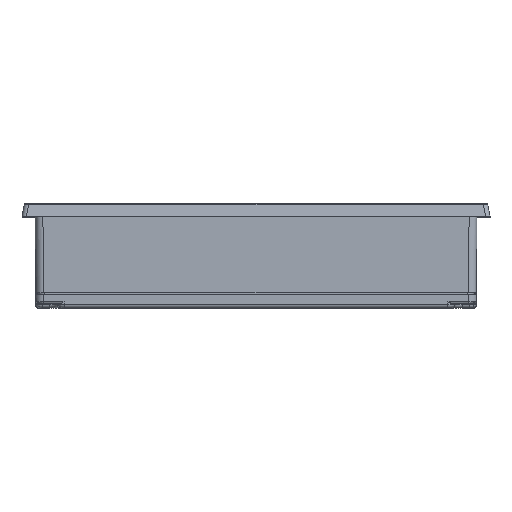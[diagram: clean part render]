
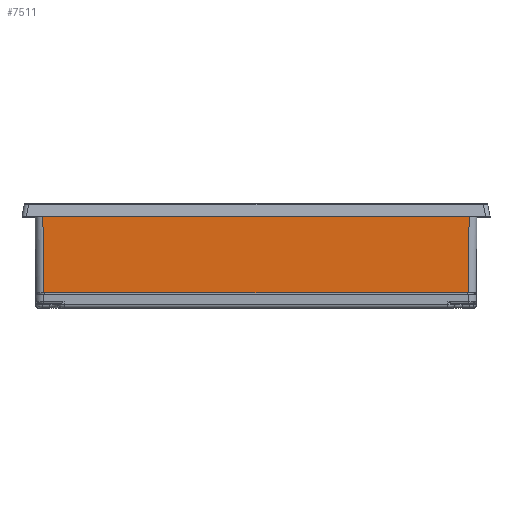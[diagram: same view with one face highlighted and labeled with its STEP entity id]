
A CAD part, top view. The second image highlights one B-rep face of the part: STEP entity #7511.
In plain terms, the highlighted planar face has unit normal (0, -0.009, 1).
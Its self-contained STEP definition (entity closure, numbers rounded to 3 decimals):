
#2319 = CARTESIAN_POINT ( 'NONE',  ( 95.5, 2.531, 69. ) ) ;
#2365 = VERTEX_POINT ( 'NONE', #15711 ) ;
#2986 = CARTESIAN_POINT ( 'NONE',  ( 95.182, -34., 68.681 ) ) ;
#3108 = CARTESIAN_POINT ( 'NONE',  ( 99., 2.5, 69. ) ) ;
#3611 = VECTOR ( 'NONE', #5751, 1000. ) ;
#4646 = PLANE ( 'NONE',  #5873 ) ;
#5151 = ORIENTED_EDGE ( 'NONE', *, *, #8967, .T. ) ;
#5294 = VERTEX_POINT ( 'NONE', #13387 ) ;
#5471 = EDGE_LOOP ( 'NONE', ( #13209, #5151, #11008, #10846 ) ) ;
#5664 = VECTOR ( 'NONE', #9224, 1000. ) ;
#5751 = DIRECTION ( 'NONE',  ( -1., 0., 0. ) ) ;
#5873 = AXIS2_PLACEMENT_3D ( 'NONE', #3108, #16902, #17058 ) ;
#5890 = CARTESIAN_POINT ( 'NONE',  ( -95.485, 0.803, 68.985 ) ) ;
#7422 = CARTESIAN_POINT ( 'NONE',  ( 99., -34., 68.681 ) ) ;
#7511 = ADVANCED_FACE ( 'NONE', ( #14033 ), #4646, .T. ) ;
#8967 = EDGE_CURVE ( 'NONE', #17882, #5294, #14698, .T. ) ;
#9224 = DIRECTION ( 'NONE',  ( 0.009, 1., 0.009 ) ) ;
#10124 = LINE ( 'NONE', #7422, #12876 ) ;
#10846 = ORIENTED_EDGE ( 'NONE', *, *, #13529, .T. ) ;
#10962 = CARTESIAN_POINT ( 'NONE',  ( -104.85, 3., 69.004 ) ) ;
#11008 = ORIENTED_EDGE ( 'NONE', *, *, #12393, .T. ) ;
#12393 = EDGE_CURVE ( 'NONE', #5294, #2365, #16735, .T. ) ;
#12876 = VECTOR ( 'NONE', #19766, 1000. ) ;
#13209 = ORIENTED_EDGE ( 'NONE', *, *, #14022, .T. ) ;
#13387 = CARTESIAN_POINT ( 'NONE',  ( 95.504, 3., 69.004 ) ) ;
#13529 = EDGE_CURVE ( 'NONE', #2365, #21483, #15031, .T. ) ;
#13970 = VECTOR ( 'NONE', #19787, 1000. ) ;
#14022 = EDGE_CURVE ( 'NONE', #21483, #17882, #10124, .T. ) ;
#14033 = FACE_OUTER_BOUND ( 'NONE', #5471, .T. ) ;
#14698 = LINE ( 'NONE', #2319, #5664 ) ;
#15031 = LINE ( 'NONE', #5890, #13970 ) ;
#15711 = CARTESIAN_POINT ( 'NONE',  ( -95.504, 3., 69.004 ) ) ;
#16735 = LINE ( 'NONE', #10962, #3611 ) ;
#16902 = DIRECTION ( 'NONE',  ( 0., -0.009, 1. ) ) ;
#17058 = DIRECTION ( 'NONE',  ( 0., -1., -0.009 ) ) ;
#17882 = VERTEX_POINT ( 'NONE', #2986 ) ;
#19766 = DIRECTION ( 'NONE',  ( 1., 0., 0. ) ) ;
#19787 = DIRECTION ( 'NONE',  ( 0.009, -1., -0.009 ) ) ;
#21483 = VERTEX_POINT ( 'NONE', #22328 ) ;
#22328 = CARTESIAN_POINT ( 'NONE',  ( -95.182, -34., 68.681 ) ) ;
